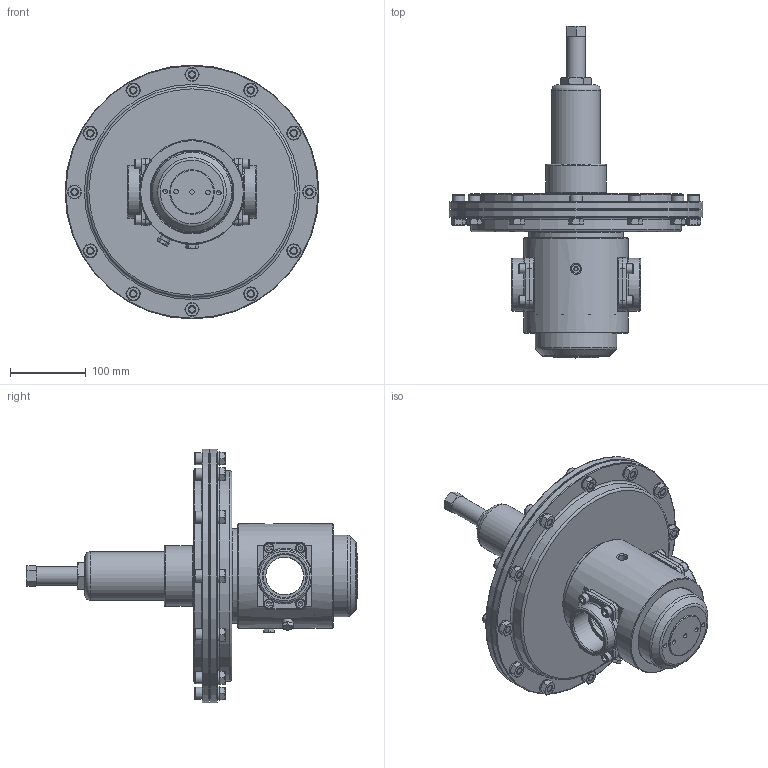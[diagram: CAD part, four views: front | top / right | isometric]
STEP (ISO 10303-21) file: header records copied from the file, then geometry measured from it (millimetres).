
FILE_DESCRIPTION(/* description */ (''),/* implementation_level */ '2;1');
FILE_NAME(/* name */ 'U:/AirCom-Produktdokumentation/Druckregler/R3100/Zeichnungen/CAD-Aircom/3D/B-R3100-16.step',/* time_stamp */ '2022-07-14T15:01:26+02:00',/* author */ (''),/* organization */ (''),/* preprocessor_version */ 'ST-DEVELOPER v19',/* originating_system */ 'Autodesk Translation Framework v11.7.0.108',/* authorisation */ '');
FILE_SCHEMA (('AUTOMOTIVE_DESIGN { 1 0 10303 214 3 1 1 }'));
Length unit declared in the file: millimetre
Products named in the file (25): C81028; P34140; 0DQ10700; 0DM10600; 0DB10612; 0DB10612_1; 0DB10612_2; 0DB10612_3; 0DB10612_4; 0DB10612_5; P64027; P34014; OR 13157; OR 13157_1; 0DC10514; 0DC10614; P20466; P23033; P64001_1; P34169; P31004_1; P26093; P43075_1; 0DN111_1; P37163
Assembly tree (66 placements, depth 2):
  C81028
    P34140
    0DQ10700  x12
    0DM10600  x12
    0DB10612
    0DB10612_1
    0DB10612_2
    0DB10612_3
    0DB10612_4
    0DB10612_5
    P64027
    P34014  x2
    OR 13157
    OR 13157_1
    0DC10514  x8
    0DC10614  x12
    P20466
    P23033
    P64001_1
    P34169
    P31004_1
    P26093
    P43075_1
    0DN111_1
    P37163  x2
Bounding box: 336 x 439.5 x 336 mm (x, y, z)
Volume: 2057461.7 mm3; surface area: 826397.4 mm2
Topology: 66 solids, 66 shells, 1138 faces, 2649 edges, 1675 vertices
Faces by surface type: plane 428, cone 347, cylinder 243, torus 109, bspline 11
Full cylindrical faces by diameter (mm): 5.5 x3, 6 x5, 6.647 x8, 8 x8, 8.376 x12, 8.5 x8, 10 x12, 10.5 x48, 11 x2, 11.445 x4, 13 x8, 13.157 x2, 16 x12, 18 x12, 21.835 x1, 22 x1, 24 x1, 50 x2, 54.376 x1, 56 x1, 56.656 x2, 57 x1, 59 x1, 60 x2, 61.5 x2, 62 x1, 62.376 x1, 62.5 x1, 64 x2, 64.5 x3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
Entity records: 17961 total; most frequent: CARTESIAN_POINT 5266, DIRECTION 2697, ORIENTED_EDGE 2322, AXIS2_PLACEMENT_3D 1177, EDGE_CURVE 1161, VERTEX_POINT 755, EDGE_LOOP 634, CIRCLE 609
